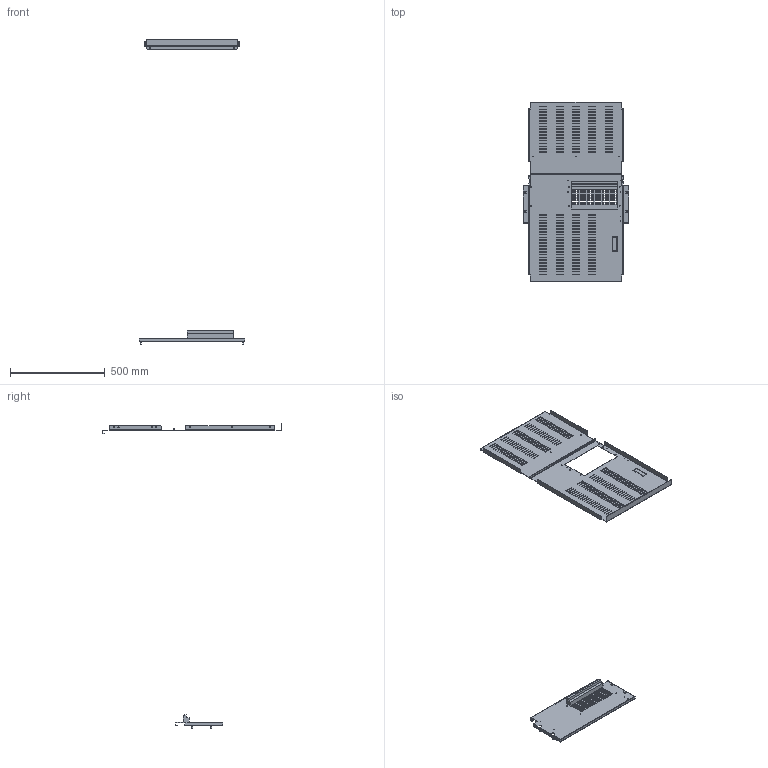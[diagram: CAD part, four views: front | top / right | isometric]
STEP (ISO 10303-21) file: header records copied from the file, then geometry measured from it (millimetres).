
FILE_DESCRIPTION(('CAx-IF Rec.Pracs.---Model Styling and Organization---1.2---2011-12-15','CAx-IF Rec.Pracs.---Geometric and Assembly Validation Properties---4.1---2014-06-16','CAx-IF Rec.Pracs.---PMI Polyline Presentation---2.0---2013-05-24'),'2;1');
FILE_NAME('R5M2UBFRNG12 (2200x600x(400+800)) (4).stp','2021-05-05T12:06:21+03:00',(''),(''),'STEP Interface 4.4 by CT CoreTechnologie','3D_Evolution4.4 by CT CoreTechnologie','');
FILE_SCHEMA(('AUTOMOTIVE_DESIGN { 1 0 10303 214 1 1 1 1 }'));
Length unit declared in the file: millimetre
Products named in the file (6): R5M2UBFRNG10 (2000õ600õ; M6x16-DIN 7985 ISR_stright; RB.0792.00.00.0_-00; RB.0834.00.00.1_-00; RB.0835.00.00.0_-00; RB.1735.00.00.0
Assembly tree (8 placements, depth 2):
  R5M2UBFRNG10 (2000õ600õ
    M6x16-DIN 7985 ISR_stright  x4
    RB.0792.00.00.0_-00
    RB.0834.00.00.1_-00
    RB.0835.00.00.0_-00
    RB.1735.00.00.0
Bounding box: 559 x 945.5 x 1606 mm (x, y, z)
Surface area: 1369560.2 mm2 (no closed solid volume)
Topology: 0 solids, 12 shells, 1241 faces, 3588 edges, 2361 vertices
Faces by surface type: plane 1078, cylinder 155, bspline 8
Entity records: 41211 total; most frequent: CARTESIAN_POINT 7453, ORIENTED_EDGE 7100, DIRECTION 6244, EDGE_CURVE 3552, VECTOR 3264, LINE 3264, VERTEX_POINT 2337, EDGE_LOOP 1741
